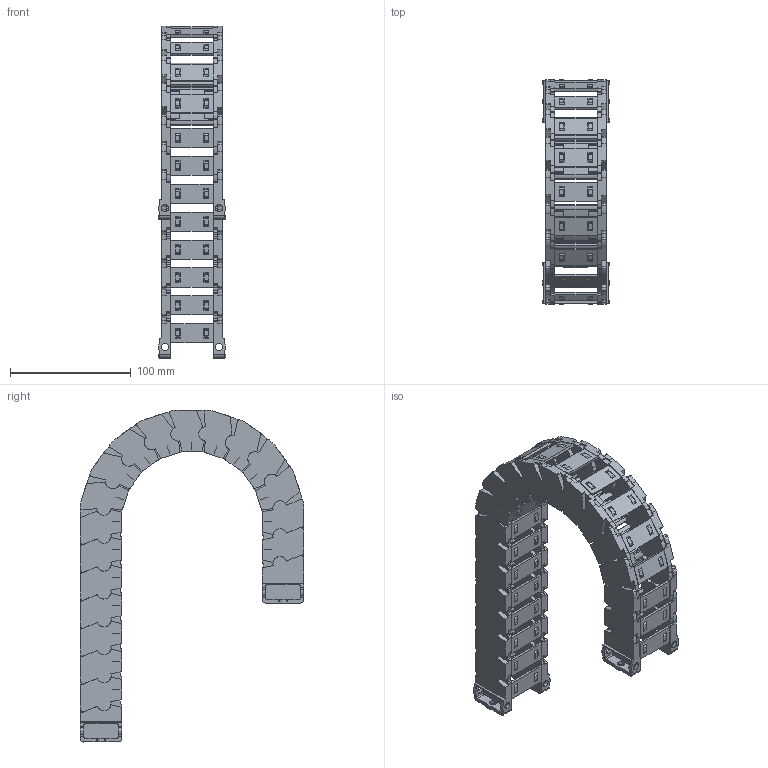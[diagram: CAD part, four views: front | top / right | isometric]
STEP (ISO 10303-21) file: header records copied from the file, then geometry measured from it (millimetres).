
FILE_DESCRIPTION((''),'2;1');
FILE_NAME('JY-25X35-R75_ASM','2023-02-08T15:12:08',('admin'),(''),'CREO PARAMETRIC BY PTC INC, 2021164','CREO PARAMETRIC BY PTC INC, 2021164','');
FILE_SCHEMA(('CONFIG_CONTROL_DESIGN','GEOMETRIC_VALIDATION_PROPERTIES_MIM'));
Length unit declared in the file: millimetre
Products named in the file (11): 25XL-L; 25-35XL-YP; 25XL-R; ASM0001_ASM; 25-LTT-A-L; 25-LTT-A-R; 25XL-LTT-A_ASM; 25-LTT-B-L; 25-LTT-B-R; 25XL-LTT-B_ASM; JY-25X35-R75_ASM
Assembly tree (32 placements, depth 3):
  JY-25X35-R75_ASM
    ASM0001_ASM  x18
      25XL-L
      25-35XL-YP
      25XL-R
    25XL-LTT-A_ASM
      25-LTT-A-L
      25-35XL-YP  x2
      25-LTT-A-R
    25XL-LTT-B_ASM
      25-LTT-B-L
      25-35XL-YP  x2
      25-LTT-B-R
Bounding box: 55.67 x 185.54 x 275.02 mm (x, y, z)
Volume: 291992.7 mm3; surface area: 220939.3 mm2
Topology: 80 solids, 98 shells, 4162 faces, 12432 edges, 8410 vertices
Faces by surface type: plane 3064, cylinder 1062, cone 36
Entity records: 24059 total; most frequent: CARTESIAN_POINT 3120, DIRECTION 3015, ORIENTED_EDGE 2962, EDGE_CURVE 1483, PRESENTATION_STYLE_ASSIGNMENT 1413, STYLED_ITEM 1381, VECTOR 1053, LINE 1053
